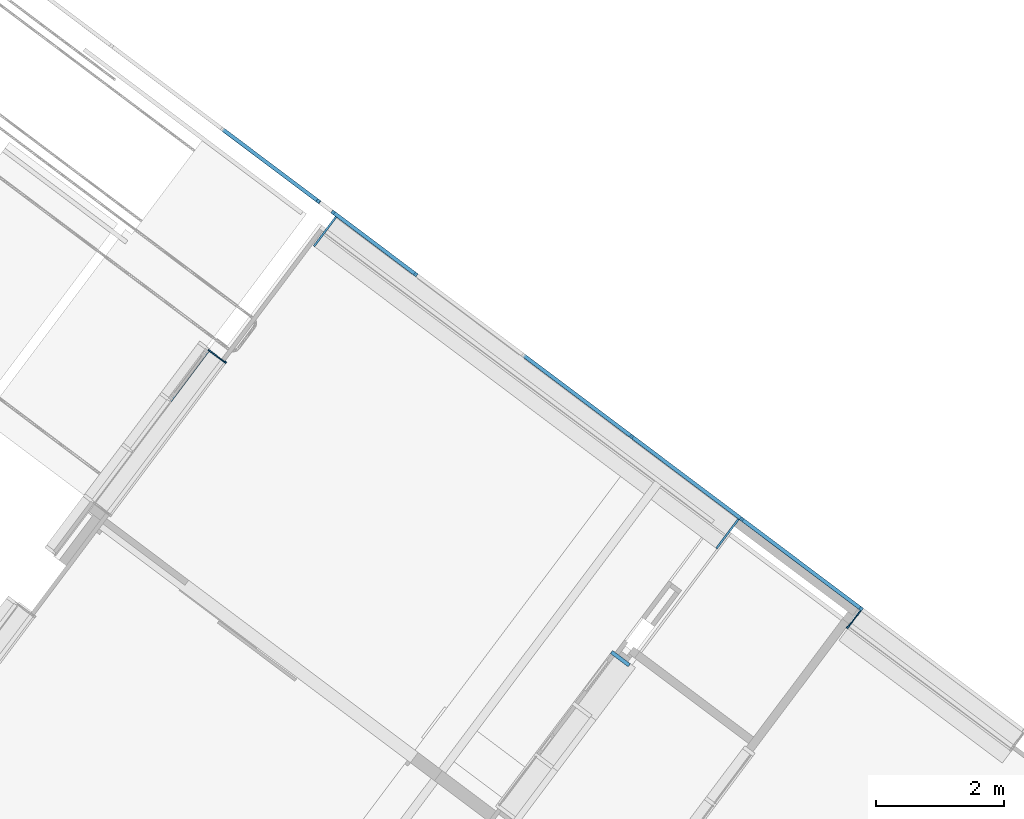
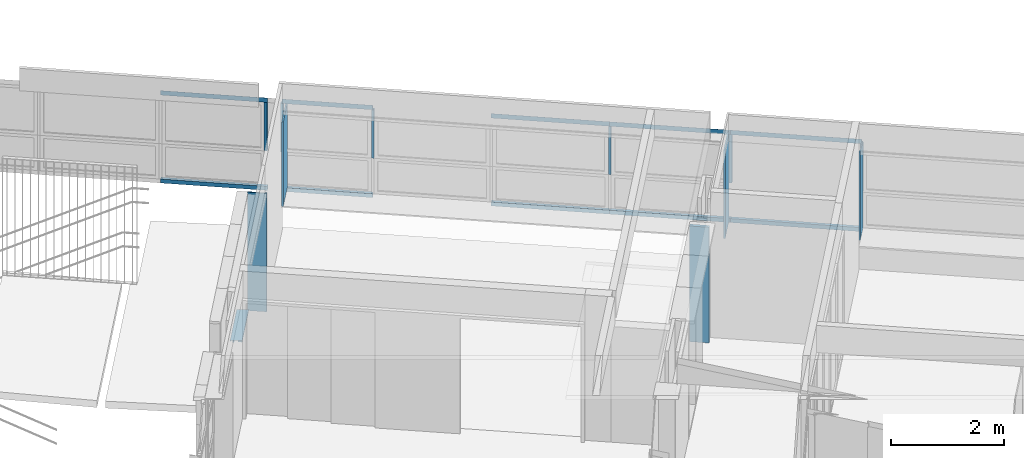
# One storey, part 31 of 243: 23 members, 7 elements without a shape of their own.
"""IFC2X3 building model written with IfcOpenShell, lengths in metres."""

from ifc_helpers import new_model, entity, si_unit, converted_unit, derived_unit, direction, frame, frame_2d, origin, origin_2d_with_axis, place, context, subcontext, project, spatial, polyline, circle_curve, parameter, trimmed, segment, composite_curve, rectangle, outline, extrude, source, transform, mapped, material, type_object, type_shapes, element, aggregate, save


model = new_model("IFC2X3")

# Units and contexts
model_context = context("Model", 3, precision=1e-05, world=origin(), true_north=direction((6.123031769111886e-17, 1.0)))
body_context = subcontext(model_context, "Body", "Model", "MODEL_VIEW")
ifc_project = project(units=[si_unit("LENGTHUNIT", "METRE"), si_unit("AREAUNIT", "SQUARE_METRE"), si_unit("VOLUMEUNIT", "CUBIC_METRE"), converted_unit("PLANEANGLEUNIT", "DEGREE", entity("IfcRatioMeasure", 0.017453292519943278), si_unit("PLANEANGLEUNIT", "RADIAN"), dimensions=[0, 0, 0, 0, 0, 0, 0]), si_unit("MASSUNIT", "GRAM", prefix="KILO"), derived_unit("MASSDENSITYUNIT", [(si_unit("MASSUNIT", "GRAM", prefix="KILO"), 1), (si_unit("LENGTHUNIT", "METRE"), -3)]), derived_unit("IONCONCENTRATIONUNIT", [(si_unit("MASSUNIT", "GRAM", prefix="KILO"), 1), (si_unit("LENGTHUNIT", "METRE"), -3)]), derived_unit("MOMENTOFINERTIAUNIT", [(si_unit("LENGTHUNIT", "METRE"), 4)]), si_unit("TIMEUNIT", "SECOND"), si_unit("FREQUENCYUNIT", "HERTZ"), si_unit("THERMODYNAMICTEMPERATUREUNIT", "DEGREE_CELSIUS"), derived_unit("THERMALTRANSMITTANCEUNIT", [(si_unit("MASSUNIT", "GRAM", prefix="KILO"), 1), (si_unit("THERMODYNAMICTEMPERATUREUNIT", "KELVIN"), -1), (si_unit("TIMEUNIT", "SECOND"), -3)]), derived_unit("THERMALCONDUCTANCEUNIT", [(si_unit("MASSUNIT", "GRAM", prefix="KILO"), 1), (si_unit("THERMODYNAMICTEMPERATUREUNIT", "KELVIN"), -1), (si_unit("TIMEUNIT", "SECOND"), -3), (si_unit("LENGTHUNIT", "METRE"), 1)]), derived_unit("VOLUMETRICFLOWRATEUNIT", [(si_unit("LENGTHUNIT", "METRE"), 3), (si_unit("TIMEUNIT", "SECOND"), -1)]), derived_unit("MASSFLOWRATEUNIT", [(si_unit("MASSUNIT", "GRAM", prefix="KILO"), 1), (si_unit("TIMEUNIT", "SECOND"), -1)]), derived_unit("ROTATIONALFREQUENCYUNIT", [(si_unit("TIMEUNIT", "SECOND"), -1)]), si_unit("ELECTRICCURRENTUNIT", "AMPERE"), si_unit("ELECTRICVOLTAGEUNIT", "VOLT"), si_unit("POWERUNIT", "WATT"), si_unit("FORCEUNIT", "NEWTON", prefix="KILO"), si_unit("ILLUMINANCEUNIT", "LUX"), si_unit("LUMINOUSFLUXUNIT", "LUMEN"), si_unit("LUMINOUSINTENSITYUNIT", "CANDELA"), derived_unit("USERDEFINED", [(si_unit("MASSUNIT", "GRAM", prefix="KILO"), -1), (si_unit("LENGTHUNIT", "METRE"), -2), (si_unit("TIMEUNIT", "SECOND"), 3), (si_unit("LUMINOUSFLUXUNIT", "LUMEN"), 1)]), derived_unit("USERDEFINED", [(si_unit("MASSUNIT", "GRAM", prefix="KILO"), 1), (si_unit("TIMEUNIT", "SECOND"), -3), (si_unit("LENGTHUNIT", "METRE"), 3), (si_unit("ELECTRICCURRENTUNIT", "AMPERE"), -2)]), derived_unit("SOUNDPOWERUNIT", [(si_unit("MASSUNIT", "GRAM", prefix="KILO"), 1), (si_unit("TIMEUNIT", "SECOND"), -3), (si_unit("LENGTHUNIT", "METRE"), 2)]), derived_unit("SOUNDPRESSUREUNIT", [(si_unit("MASSUNIT", "GRAM", prefix="KILO"), 1), (si_unit("LENGTHUNIT", "METRE"), -1), (si_unit("TIMEUNIT", "SECOND"), -2)]), derived_unit("LINEARVELOCITYUNIT", [(si_unit("LENGTHUNIT", "METRE"), 1), (si_unit("TIMEUNIT", "SECOND"), -1)]), si_unit("PRESSUREUNIT", "PASCAL"), derived_unit("USERDEFINED", [(si_unit("MASSUNIT", "GRAM", prefix="KILO"), 1), (si_unit("LENGTHUNIT", "METRE"), -2), (si_unit("TIMEUNIT", "SECOND"), -2)]), derived_unit("LINEARFORCEUNIT", [(si_unit("MASSUNIT", "GRAM", prefix="KILO"), 1), (si_unit("TIMEUNIT", "SECOND"), -2)]), derived_unit("PLANARFORCEUNIT", [(si_unit("MASSUNIT", "GRAM", prefix="KILO"), 1), (si_unit("LENGTHUNIT", "METRE"), -1), (si_unit("TIMEUNIT", "SECOND"), -2)]), derived_unit("SPECIFICHEATCAPACITYUNIT", [(si_unit("THERMODYNAMICTEMPERATUREUNIT", "KELVIN"), -1), (si_unit("LENGTHUNIT", "METRE"), 2), (si_unit("TIMEUNIT", "SECOND"), -2)]), derived_unit("HEATINGVALUEUNIT", [(si_unit("LENGTHUNIT", "METRE"), 2), (si_unit("TIMEUNIT", "SECOND"), -2)]), derived_unit("VAPORPERMEABILITYUNIT", [(si_unit("LENGTHUNIT", "METRE"), -1), (si_unit("TIMEUNIT", "SECOND"), 1)]), derived_unit("DYNAMICVISCOSITYUNIT", [(si_unit("MASSUNIT", "GRAM", prefix="KILO"), 1), (si_unit("TIMEUNIT", "SECOND"), -1), (si_unit("LENGTHUNIT", "METRE"), -1)]), derived_unit("THERMALEXPANSIONCOEFFICIENTUNIT", [(si_unit("THERMODYNAMICTEMPERATUREUNIT", "KELVIN"), -1)]), derived_unit("MODULUSOFELASTICITYUNIT", [(si_unit("MASSUNIT", "GRAM", prefix="KILO"), 1), (si_unit("LENGTHUNIT", "METRE"), -1), (si_unit("TIMEUNIT", "SECOND"), -2)]), derived_unit("ISOTHERMALMOISTURECAPACITYUNIT", [(si_unit("LENGTHUNIT", "METRE"), 3), (si_unit("MASSUNIT", "GRAM", prefix="KILO"), -1)]), derived_unit("MOISTUREDIFFUSIVITYUNIT", [(si_unit("TIMEUNIT", "SECOND"), -1), (si_unit("LENGTHUNIT", "METRE"), 2)])], contexts=[model_context])

# Site, building, storey
site_placement = place(None, frame((0.0, 0.0, 235.0), z_axis=(0.0, 0.0, 1.0), x_axis=(-0.7996477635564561, 0.6004693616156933, 0.0)))
site = spatial("IfcSite", under=ifc_project, at=site_placement, Name="Default", CompositionType="ELEMENT")
building_placement = place(site_placement, origin())
building = spatial("IfcBuilding", under=site, at=building_placement, CompositionType="ELEMENT")
storey_placement = place(building_placement, origin())
storey = spatial("IfcBuildingStorey", under=building, at=storey_placement, Name="P0- Escola", CompositionType="ELEMENT", Elevation=0.0)

# Curtain wall, member
curtain_wall_type_1 = type_object("IfcCurtainWallType", Name="Muro cortina:MC- INT- a4", PredefinedType="NOTDEFINED")
curtain_wall_1_placement = place(storey_placement, origin())
curtain_wall_1 = element("IfcCurtainWall", 1, at=curtain_wall_1_placement, inside=storey, type_object=curtain_wall_type_1, Name="Muro cortina:MC- INT- a4", ObjectType="Muro cortina:MC- INT- a4")
ifc_material_1 = material(Name="_Fusta massisa- T1")
member_type_1 = type_object("IfcMemberType", Name="Montante rectangular:MC- Fusta- 35x6 cm- Neutre", PredefinedType="MULLION", material=ifc_material_1)
shared_shape_1 = source(origin(), body_context, "Body", "SweptSolid", [
    extrude(rectangle(XDim=0.3500000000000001, YDim=0.06, at=origin_2d_with_axis()), frame((-0.03, -0.13499999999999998, -2.5050000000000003), z_axis=(0.0, 0.0, 1.0), x_axis=(0.0, -1.0, 0.0)), (0.0, 0.0, 1.0), 2.5050000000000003),
])
type_shapes(member_type_1, [shared_shape_1])
member_1_placement = place(curtain_wall_1_placement, frame((15.955147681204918, -39.44769175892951, 2.5050000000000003), z_axis=(0.0, 0.0, 1.0), x_axis=(0.0, -1.0, 0.0)))
member_1 = element("IfcMember", 2, at=member_1_placement, type_object=member_type_1, material=ifc_material_1, Name="Montante rectangular:MC- Fusta- 35x6 cm- Neutre", ObjectType="Montante rectangular:MC- Fusta- 35x6 cm- Neutre", context=body_context, shape_type="MappedRepresentation", body=[
    mapped(shared_shape_1, transform((0.0, 0.0, 0.0), scale=1.0)),
])
aggregate(curtain_wall_1, [member_1])

curtain_wall_type_2 = type_object("IfcCurtainWallType", Name="Muro cortina:MC- INT- k10- Pati passadís", PredefinedType="NOTDEFINED")
curtain_wall_2_placement = place(storey_placement, origin())
curtain_wall_2 = element("IfcCurtainWall", 3, at=curtain_wall_2_placement, inside=storey, type_object=curtain_wall_type_2, Name="Muro cortina:MC- INT- k10- Pati passadís", ObjectType="Muro cortina:MC- INT- k10- Pati passadís")
member_type_2 = type_object("IfcMemberType", Name="Montante rectangular:MC- Fusta- 35x3 cm- Pati aules- Remat dreta", PredefinedType="MULLION", material=ifc_material_1)
shared_shape_2 = source(origin(), body_context, "Body", "SweptSolid", [
    extrude(outline(polyline([(-0.12500000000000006, -0.01666666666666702), (0.22000000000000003, -0.01666666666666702), (0.22000000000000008, 0.003333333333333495), (-0.09499999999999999, 0.003333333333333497), (-0.09500000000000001, 0.013333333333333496), (-0.12499999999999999, 0.013333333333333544), (-0.12500000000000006, -0.01666666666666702)])), frame((-0.013333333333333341, -0.030000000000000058, -2.5649999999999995), z_axis=(0.0, 0.0, 1.0), x_axis=(0.0, -1.0, 0.0)), (0.0, 0.0, 1.0), 2.565),
])
type_shapes(member_type_2, [shared_shape_2])
member_2_placement = place(curtain_wall_2_placement, frame((23.645147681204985, -39.430191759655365, 0.0), z_axis=(0.0, 0.0, -1.0), x_axis=(0.0, -1.0, 0.0)))
member_2 = element("IfcMember", 4, at=member_2_placement, type_object=member_type_2, material=ifc_material_1, Name="Montante rectangular:MC- Fusta- 35x3 cm- Pati aules- Remat dreta", ObjectType="Montante rectangular:MC- Fusta- 35x3 cm- Pati aules- Remat dreta", context=body_context, shape_type="MappedRepresentation", body=[
    mapped(shared_shape_2, transform((0.0, 0.0, 0.0), scale=1.0)),
])
aggregate(curtain_wall_2, [member_2])

# Curtain wall, members
curtain_wall_type_3 = type_object("IfcCurtainWallType", Name="Muro cortina:MC- EXT- MC6", PredefinedType="NOTDEFINED")
curtain_wall_3_placement = place(storey_placement, origin())
curtain_wall_3 = element("IfcCurtainWall", 5, at=curtain_wall_3_placement, inside=storey, type_object=curtain_wall_type_3, Name="Muro cortina:MC- EXT- MC6", ObjectType="Muro cortina:MC- EXT- MC6")
ifc_material_2 = material(Name="_Alumini- T1- Perfil")
member_type_3 = type_object("IfcMemberType", Name="Montante rectangular:MC- Alu- 140x52,5 cm- Fa pista- Superior", PredefinedType="MULLION", material=ifc_material_2)
shared_shape_3 = source(origin(), body_context, "Body", "SweptSolid", [
    extrude(outline(polyline([(-0.03933333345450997, -0.04916666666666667), (0.02066666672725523, -0.04916666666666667), (0.020666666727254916, 0.048333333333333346), (0.018666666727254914, 0.04833333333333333), (0.018666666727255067, 0.00083333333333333), (-0.03933333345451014, 0.00083333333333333), (-0.03933333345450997, -0.04916666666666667)])), frame((-0.048333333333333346, -0.03933333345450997, -2.117000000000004), z_axis=(0.0, 0.0, 1.0), x_axis=(0.0, -1.0, 0.0)), (0.0, 0.0, 1.0), 2.117000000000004),
])
type_shapes(member_type_3, [shared_shape_3])
member_3_placement = place(curtain_wall_3_placement, frame((19.888147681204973, -42.3401917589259, 2.6000000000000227), z_axis=(1.0, 0.0, 0.0), x_axis=(0.0, 0.0, 1.0)))
member_3 = element("IfcMember", 6, at=member_3_placement, type_object=member_type_3, material=ifc_material_2, Name="Montante rectangular:MC- Alu- 140x52,5 cm- Fa pista- Superior", ObjectType="Montante rectangular:MC- Alu- 140x52,5 cm- Fa pista- Superior", context=body_context, shape_type="MappedRepresentation", body=[
    mapped(shared_shape_3, transform((0.0, 0.0, 0.0), scale=1.0)),
])
member_type_4 = type_object("IfcMemberType", Name="Montante rectangular:MC- Alu- 52x80 cm- Fa pista- inferior", PredefinedType="MULLION", material=ifc_material_2)
shared_shape_4 = source(origin(), body_context, "Body", "SweptSolid", [
    extrude(rectangle(XDim=0.06000000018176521, YDim=0.085, at=origin_2d_with_axis()), frame((-0.0425, -0.030000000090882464, -2.117000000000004), z_axis=(0.0, 0.0, 1.0), x_axis=(0.0, -1.0, 0.0)), (0.0, 0.0, 1.0), 2.117000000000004),
])
type_shapes(member_type_4, [shared_shape_4])
member_4_placement = place(curtain_wall_3_placement, frame((17.77114768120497, -42.34019175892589, 0.6000000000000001), z_axis=(-1.0, 0.0, 0.0), x_axis=(0.0, 0.0, -1.0)))
member_4 = element("IfcMember", 7, at=member_4_placement, type_object=member_type_4, material=ifc_material_2, Name="Montante rectangular:MC- Alu- 52x80 cm- Fa pista- inferior", ObjectType="Montante rectangular:MC- Alu- 52x80 cm- Fa pista- inferior", context=body_context, shape_type="MappedRepresentation", body=[
    mapped(shared_shape_4, transform((0.0, 0.0, 0.0), scale=1.0)),
])
member_type_5 = type_object("IfcMemberType", Name="Montante rectangular:MC- Alu- 50x60 cm- Fa pista- Centre", PredefinedType="MULLION", material=ifc_material_2)
shared_shape_5 = source(origin(), body_context, "Body", "SweptSolid", [
    extrude(rectangle(XDim=0.06000000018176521, YDim=0.05, at=frame_2d((3.469446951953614e-18, 0.0), x_axis=(1.0, 0.0))), frame((-0.025, -0.030000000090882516, -1.0475000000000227), z_axis=(0.0, 0.0, 1.0), x_axis=(0.0, -1.0, 0.0)), (0.0, 0.0, 1.0), 1.0475000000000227),
])
type_shapes(member_type_5, [shared_shape_5])
member_5_placement = place(curtain_wall_3_placement, frame((23.945147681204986, -42.34019175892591, 1.455), z_axis=(0.0, 0.0, -1.0), x_axis=(1.0, 0.0, 0.0)))
member_5 = element("IfcMember", 8, at=member_5_placement, type_object=member_type_5, material=ifc_material_2, Name="Montante rectangular:MC- Alu- 50x60 cm- Fa pista- Centre", ObjectType="Montante rectangular:MC- Alu- 50x60 cm- Fa pista- Centre", context=body_context, shape_type="MappedRepresentation", body=[
    mapped(shared_shape_5, transform((0.0, 0.0, 0.0), scale=1.0)),
])
member_type_6 = type_object("IfcMemberType", Name="Montante rectangular:MC- Alu- 50x60 cm- Fa pista- Centre", PredefinedType="MULLION", material=ifc_material_2)
shared_shape_6 = source(origin(), body_context, "Body", "SweptSolid", [
    extrude(rectangle(XDim=0.0600000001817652, YDim=0.05, at=frame_2d((8.673617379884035e-18, 0.0), x_axis=(1.0, 0.0))), frame((0.0, -0.030000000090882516, -1.0475000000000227), z_axis=(0.0, 0.0, 1.0), x_axis=(0.0, -1.0, 0.0)), (0.0, 0.0, 1.0), 1.0475000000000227),
])
type_shapes(member_type_6, [shared_shape_6])
member_6_placement = place(curtain_wall_3_placement, frame((13.271429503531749, -42.340191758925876, 1.455), z_axis=(0.0, 0.0, -1.0), x_axis=(1.0, 0.0, 0.0)))
member_6 = element("IfcMember", 9, at=member_6_placement, type_object=member_type_6, material=ifc_material_2, Name="Montante rectangular:MC- Alu- 50x60 cm- Fa pista- Centre", ObjectType="Montante rectangular:MC- Alu- 50x60 cm- Fa pista- Centre", context=body_context, shape_type="MappedRepresentation", body=[
    mapped(shared_shape_6, transform((0.0, 0.0, 0.0), scale=1.0)),
])
member_7_placement = place(curtain_wall_3_placement, frame((15.611792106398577, -42.34019175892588, 1.455), z_axis=(0.0, 0.0, -1.0), x_axis=(1.0, 0.0, 0.0)))
member_7 = element("IfcMember", 10, at=member_7_placement, type_object=member_type_6, material=ifc_material_2, Name="Montante rectangular:MC- Alu- 50x60 cm- Fa pista- Centre", ObjectType="Montante rectangular:MC- Alu- 50x60 cm- Fa pista- Centre", context=body_context, shape_type="MappedRepresentation", body=[
    mapped(shared_shape_6, transform((0.0, 0.0, 0.0), scale=1.0)),
])
member_8_placement = place(curtain_wall_3_placement, frame((17.77114768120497, -42.34019175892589, 1.455), z_axis=(0.0, 0.0, -1.0), x_axis=(1.0, 0.0, 0.0)))
member_8 = element("IfcMember", 11, at=member_8_placement, type_object=member_type_6, material=ifc_material_2, Name="Montante rectangular:MC- Alu- 50x60 cm- Fa pista- Centre", ObjectType="Montante rectangular:MC- Alu- 50x60 cm- Fa pista- Centre", context=body_context, shape_type="MappedRepresentation", body=[
    mapped(shared_shape_6, transform((0.0, 0.0, 0.0), scale=1.0)),
])
member_9_placement = place(curtain_wall_3_placement, frame((22.005147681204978, -42.3401917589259, 1.455), z_axis=(0.0, 0.0, -1.0), x_axis=(1.0, 0.0, 0.0)))
member_9 = element("IfcMember", 12, at=member_9_placement, type_object=member_type_6, material=ifc_material_2, Name="Montante rectangular:MC- Alu- 50x60 cm- Fa pista- Centre", ObjectType="Montante rectangular:MC- Alu- 50x60 cm- Fa pista- Centre", context=body_context, shape_type="MappedRepresentation", body=[
    mapped(shared_shape_6, transform((0.0, 0.0, 0.0), scale=1.0)),
])
member_10_placement = place(curtain_wall_3_placement, frame((23.625147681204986, -42.34019175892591, 1.455), z_axis=(0.0, 0.0, -1.0), x_axis=(1.0, 0.0, 0.0)))
member_10 = element("IfcMember", 13, at=member_10_placement, type_object=member_type_6, material=ifc_material_2, Name="Montante rectangular:MC- Alu- 50x60 cm- Fa pista- Centre", ObjectType="Montante rectangular:MC- Alu- 50x60 cm- Fa pista- Centre", context=body_context, shape_type="MappedRepresentation", body=[
    mapped(shared_shape_6, transform((0.0, 0.0, 0.0), scale=1.0)),
])

# Curtain wall, member
curtain_wall_type_4 = type_object("IfcCurtainWallType", Name="Muro cortina:MC- EXT- MC2", PredefinedType="NOTDEFINED")
curtain_wall_4_placement = place(storey_placement, origin())
curtain_wall_4 = element("IfcCurtainWall", 14, at=curtain_wall_4_placement, inside=storey, type_object=curtain_wall_type_4, Name="Muro cortina:MC- EXT- MC2", ObjectType="Muro cortina:MC- EXT- MC2")
member_type_7 = type_object("IfcMemberType", Name="Montante rectangular:MC- Alu- 140x52,5 cm- Fa patis- inferior", PredefinedType="MULLION", material=ifc_material_2)
shared_shape_7 = source(origin(), body_context, "Body", "SweptSolid", [
    extrude(outline(composite_curve([segment(polyline([(-0.144167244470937, -0.025867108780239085), (-0.12786724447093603, -0.02586710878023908)]), True, "CONTINUOUS"), segment(polyline([(-0.12786724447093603, -0.02586710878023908), (-0.12786724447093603, -0.023167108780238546)]), True, "CONTINUOUS"), segment(polyline([(-0.12786724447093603, -0.023167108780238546), (-0.0678672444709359, -0.023167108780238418)]), True, "CONTINUOUS"), segment(polyline([(-0.0678672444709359, -0.023167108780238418), (0.07031215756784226, -0.010722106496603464)]), True, "CONTINUOUS"), segment(trimmed(circle_curve(frame_2d((0.07013275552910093, -0.008730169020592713), x_axis=(0.0897010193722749, -0.9959687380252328)), 0.0019999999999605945), [parameter(0.0)], [parameter(84.8535928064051)], True, "PARAMETER"), True, "CONTINUOUS"), segment(polyline([(0.07213275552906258, -0.008730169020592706), (0.07213275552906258, 0.006266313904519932)]), True, "CONTINUOUS"), segment(trimmed(circle_curve(frame_2d((0.07013275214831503, 0.006266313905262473), x_axis=(1.0, 0.0)), 0.0020000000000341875), [parameter(0.0)], [parameter(90.00000002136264)], True, "PARAMETER"), True, "CONTINUOUS"), segment(polyline([(0.070132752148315, 0.008266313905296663), (0.06213275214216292, 0.008266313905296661)]), True, "CONTINUOUS"), segment(polyline([(0.06213275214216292, 0.008266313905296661), (0.06213275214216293, 0.006266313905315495)]), True, "CONTINUOUS"), segment(polyline([(0.06213275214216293, 0.006266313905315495), (0.06963275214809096, 0.006266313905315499)]), True, "CONTINUOUS"), segment(trimmed(circle_curve(frame_2d((0.06963275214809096, 0.005766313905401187), x_axis=(0.0, 1.0)), 0.0004999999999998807), [parameter(269.9999999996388)], [parameter(0.0)], True, "PARAMETER"), False, "CONTINUOUS"), segment(polyline([(0.07013275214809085, 0.005766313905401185), (0.07013275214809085, -0.008730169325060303)]), True, "CONTINUOUS"), segment(polyline([(0.07013275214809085, -0.008730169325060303), (0.03213275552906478, -0.012152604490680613)]), True, "CONTINUOUS"), segment(polyline([(0.03213275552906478, -0.0121526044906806), (0.03213275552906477, 0.029132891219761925)]), True, "CONTINUOUS"), segment(polyline([(0.03213275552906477, 0.029132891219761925), (0.0021327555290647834, 0.029132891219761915)]), True, "CONTINUOUS"), segment(polyline([(0.0021327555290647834, 0.029132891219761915), (0.0021327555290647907, 0.02713289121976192)]), True, "CONTINUOUS"), segment(polyline([(0.0021327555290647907, 0.02713289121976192), (0.03013275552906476, 0.02713289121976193)]), True, "CONTINUOUS"), segment(polyline([(0.03013275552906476, 0.027132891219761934), (0.03013275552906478, -0.012332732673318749)]), True, "CONTINUOUS"), segment(polyline([(0.03013275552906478, -0.012332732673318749), (-0.06786724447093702, -0.021159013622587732)]), True, "CONTINUOUS"), segment(polyline([(-0.06786724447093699, -0.02115901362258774), (-0.067867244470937, 0.009132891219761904)]), True, "CONTINUOUS"), segment(polyline([(-0.06786724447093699, 0.009132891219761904), (-0.14416724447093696, 0.009132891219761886)]), True, "CONTINUOUS"), segment(polyline([(-0.14416724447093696, 0.009132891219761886), (-0.144167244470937, -0.025867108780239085)]), True, "CONTINUOUS")], self_intersect=False)), frame((-0.029132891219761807, -0.06786724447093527, -0.9737499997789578), z_axis=(0.0, 0.0, 1.0), x_axis=(0.0, -1.0, 0.0)), (0.0, 0.0, 1.0), 0.9737499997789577),
])
type_shapes(member_type_7, [shared_shape_7])
member_11_placement = place(curtain_wall_4_placement, frame((23.945147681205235, -38.41519175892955, -0.02), z_axis=(0.0, 1.0, 0.0), x_axis=(0.0, 0.0, -1.0)))
member_11 = element("IfcMember", 15, at=member_11_placement, type_object=member_type_7, material=ifc_material_2, Name="Montante rectangular:MC- Alu- 140x52,5 cm- Fa patis- inferior", ObjectType="Montante rectangular:MC- Alu- 140x52,5 cm- Fa patis- inferior", context=body_context, shape_type="MappedRepresentation", body=[
    mapped(shared_shape_7, transform((0.0, 0.0, 0.0), scale=1.0)),
])
aggregate(curtain_wall_4, [member_11])

curtain_wall_type_5 = type_object("IfcCurtainWallType", Name="Muro cortina:MC- INT- Fa Pista", PredefinedType="NOTDEFINED")
curtain_wall_5_placement = place(storey_placement, origin())
curtain_wall_5 = element("IfcCurtainWall", 16, at=curtain_wall_5_placement, inside=storey, type_object=curtain_wall_type_5, Name="Muro cortina:MC- INT- Fa Pista", ObjectType="Muro cortina:MC- INT- Fa Pista")
member_type_8 = type_object("IfcMemberType", Name="Montante rectangular:MC- Fusta- 34x3 cm- Fa Pista- Remat dreta", PredefinedType="MULLION", material=ifc_material_1)
shared_shape_8 = source(origin(), body_context, "Body", "SweptSolid", [
    extrude(outline(polyline([(-0.22, -0.01666666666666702), (0.12500000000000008, -0.01666666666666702), (0.12500000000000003, 0.013333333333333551), (0.09500000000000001, 0.013333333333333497), (0.09499999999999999, 0.003333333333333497), (-0.22, 0.003333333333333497), (-0.22, -0.01666666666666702)])), frame((-0.013333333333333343, 0.03000000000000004, -1.9099999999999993), z_axis=(0.0, 0.0, 1.0), x_axis=(0.0, -1.0, 0.0)), (0.0, 0.0, 1.0), 1.9099999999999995),
])
type_shapes(member_type_8, [shared_shape_8])
member_12_placement = place(curtain_wall_5_placement, frame((13.280147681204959, -42.030191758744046, 0.6550000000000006), z_axis=(0.0, 0.0, -1.0), x_axis=(1.0, 0.0, 0.0)))
member_12 = element("IfcMember", 17, at=member_12_placement, type_object=member_type_8, material=ifc_material_1, Name="Montante rectangular:MC- Fusta- 34x3 cm- Fa Pista- Remat dreta", ObjectType="Montante rectangular:MC- Fusta- 34x3 cm- Fa Pista- Remat dreta", context=body_context, shape_type="MappedRepresentation", body=[
    mapped(shared_shape_8, transform((0.0, 0.0, 0.0), scale=1.0)),
])
aggregate(curtain_wall_5, [member_12])

# Member
member_type_9 = type_object("IfcMemberType", Name="Montante rectangular:MC- Alu- 52x80 cm- Fa pista- inferior", PredefinedType="MULLION", material=ifc_material_2)
shared_shape_9 = source(origin(), body_context, "Body", "SweptSolid", [
    extrude(rectangle(XDim=0.06000000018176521, YDim=0.085, at=origin_2d_with_axis()), frame((-0.0425, -0.030000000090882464, -1.6200000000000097), z_axis=(0.0, 0.0, 1.0), x_axis=(0.0, -1.0, 0.0)), (0.0, 0.0, 1.0), 1.6200000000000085),
])
type_shapes(member_type_9, [shared_shape_9])
member_13_placement = place(curtain_wall_3_placement, frame((22.005147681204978, -42.3401917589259, 0.6000000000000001), z_axis=(-1.0, 0.0, 0.0), x_axis=(0.0, 0.0, -1.0)))
member_13 = element("IfcMember", 18, at=member_13_placement, type_object=member_type_9, material=ifc_material_2, Name="Montante rectangular:MC- Alu- 52x80 cm- Fa pista- inferior", ObjectType="Montante rectangular:MC- Alu- 52x80 cm- Fa pista- inferior", context=body_context, shape_type="MappedRepresentation", body=[
    mapped(shared_shape_9, transform((0.0, 0.0, 0.0), scale=1.0)),
])

member_type_10 = type_object("IfcMemberType", Name="Montante rectangular:MC- Alu- 140x52,5 cm- Fa pista- Superior", PredefinedType="MULLION", material=ifc_material_2)
shared_shape_10 = source(origin(), body_context, "Body", "SweptSolid", [
    extrude(outline(polyline([(-0.03933333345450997, -0.04916666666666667), (0.02066666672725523, -0.04916666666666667), (0.020666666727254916, 0.048333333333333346), (0.018666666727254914, 0.04833333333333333), (0.018666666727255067, 0.00083333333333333), (-0.03933333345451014, 0.00083333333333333), (-0.03933333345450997, -0.04916666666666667)])), frame((-0.048333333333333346, -0.03933333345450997, -2.1593555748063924), z_axis=(0.0, 0.0, 1.0), x_axis=(0.0, -1.0, 0.0)), (0.0, 0.0, 1.0), 2.159355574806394),
])
type_shapes(member_type_10, [shared_shape_10])
member_14_placement = place(curtain_wall_3_placement, frame((17.77114768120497, -42.34019175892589, 2.6000000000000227), z_axis=(1.0, 0.0, 0.0), x_axis=(0.0, 0.0, 1.0)))
member_14 = element("IfcMember", 19, at=member_14_placement, type_object=member_type_10, material=ifc_material_2, Name="Montante rectangular:MC- Alu- 140x52,5 cm- Fa pista- Superior", ObjectType="Montante rectangular:MC- Alu- 140x52,5 cm- Fa pista- Superior", context=body_context, shape_type="MappedRepresentation", body=[
    mapped(shared_shape_10, transform((0.0, 0.0, 0.0), scale=1.0)),
])

member_type_11 = type_object("IfcMemberType", Name="Montante rectangular:MC- Alu- 52x80 cm- Fa pista- inferior", PredefinedType="MULLION", material=ifc_material_2)
shared_shape_11 = source(origin(), body_context, "Body", "SweptSolid", [
    extrude(rectangle(XDim=0.06000000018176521, YDim=0.085, at=origin_2d_with_axis()), frame((-0.0425, -0.030000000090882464, -2.159355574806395), z_axis=(0.0, 0.0, 1.0), x_axis=(0.0, -1.0, 0.0)), (0.0, 0.0, 1.0), 2.159355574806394),
])
type_shapes(member_type_11, [shared_shape_11])
member_15_placement = place(curtain_wall_3_placement, frame((15.611792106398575, -42.34019175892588, 0.6000000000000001), z_axis=(-1.0, 0.0, 0.0), x_axis=(0.0, 0.0, -1.0)))
member_15 = element("IfcMember", 20, at=member_15_placement, type_object=member_type_11, material=ifc_material_2, Name="Montante rectangular:MC- Alu- 52x80 cm- Fa pista- inferior", ObjectType="Montante rectangular:MC- Alu- 52x80 cm- Fa pista- inferior", context=body_context, shape_type="MappedRepresentation", body=[
    mapped(shared_shape_11, transform((0.0, 0.0, 0.0), scale=1.0)),
])

member_type_12 = type_object("IfcMemberType", Name="Montante rectangular:MC- Alu- 52x80 cm- Fa pista- inferior", PredefinedType="MULLION", material=ifc_material_2)
shared_shape_12 = source(origin(), body_context, "Body", "SweptSolid", [
    extrude(rectangle(XDim=0.06000000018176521, YDim=0.085, at=origin_2d_with_axis()), frame((-0.0425, -0.030000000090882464, -2.3403626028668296), z_axis=(0.0, 0.0, 1.0), x_axis=(0.0, -1.0, 0.0)), (0.0, 0.0, 1.0), 2.3403626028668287),
])
type_shapes(member_type_12, [shared_shape_12])
member_16_placement = place(curtain_wall_3_placement, frame((13.271429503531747, -42.340191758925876, 0.6000000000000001), z_axis=(-1.0, 0.0, 0.0), x_axis=(0.0, 0.0, -1.0)))
member_16 = element("IfcMember", 21, at=member_16_placement, type_object=member_type_12, material=ifc_material_2, Name="Montante rectangular:MC- Alu- 52x80 cm- Fa pista- inferior", ObjectType="Montante rectangular:MC- Alu- 52x80 cm- Fa pista- inferior", context=body_context, shape_type="MappedRepresentation", body=[
    mapped(shared_shape_12, transform((0.0, 0.0, 0.0), scale=1.0)),
])

member_type_13 = type_object("IfcMemberType", Name="Montante rectangular:MC- Alu- 140x52,5 cm- Fa pista- Superior", PredefinedType="MULLION", material=ifc_material_2)
shared_shape_13 = source(origin(), body_context, "Body", "SweptSolid", [
    extrude(outline(polyline([(-0.03933333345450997, -0.04916666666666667), (0.02066666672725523, -0.04916666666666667), (0.020666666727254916, 0.048333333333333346), (0.018666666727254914, 0.04833333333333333), (0.018666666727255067, 0.00083333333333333), (-0.03933333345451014, 0.00083333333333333), (-0.03933333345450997, -0.04916666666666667)])), frame((-0.048333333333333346, -0.03933333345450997, -1.6200000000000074), z_axis=(0.0, 0.0, 1.0), x_axis=(0.0, -1.0, 0.0)), (0.0, 0.0, 1.0), 1.6200000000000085),
])
type_shapes(member_type_13, [shared_shape_13])
member_17_placement = place(curtain_wall_3_placement, frame((23.625147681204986, -42.34019175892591, 2.6000000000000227), z_axis=(1.0, 0.0, 0.0), x_axis=(0.0, 0.0, 1.0)))
member_17 = element("IfcMember", 22, at=member_17_placement, type_object=member_type_13, material=ifc_material_2, Name="Montante rectangular:MC- Alu- 140x52,5 cm- Fa pista- Superior", ObjectType="Montante rectangular:MC- Alu- 140x52,5 cm- Fa pista- Superior", context=body_context, shape_type="MappedRepresentation", body=[
    mapped(shared_shape_13, transform((0.0, 0.0, 0.0), scale=1.0)),
])

member_type_14 = type_object("IfcMemberType", Name="Montante rectangular:MC- Alu- 140x52,5 cm- Fa pista- Superior", PredefinedType="MULLION", material=ifc_material_2)
shared_shape_14 = source(origin(), body_context, "Body", "SweptSolid", [
    extrude(outline(polyline([(-0.03933333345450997, -0.04916666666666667), (0.02066666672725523, -0.04916666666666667), (0.020666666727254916, 0.048333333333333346), (0.018666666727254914, 0.04833333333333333), (0.018666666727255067, 0.00083333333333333), (-0.03933333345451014, 0.00083333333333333), (-0.03933333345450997, -0.04916666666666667)])), frame((-0.048333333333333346, -0.03933333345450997, -2.3403626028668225), z_axis=(0.0, 0.0, 1.0), x_axis=(0.0, -1.0, 0.0)), (0.0, 0.0, 1.0), 2.3403626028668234),
])
type_shapes(member_type_14, [shared_shape_14])
member_18_placement = place(curtain_wall_3_placement, frame((15.611792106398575, -42.34019175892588, 2.6000000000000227), z_axis=(1.0, 0.0, 0.0), x_axis=(0.0, 0.0, 1.0)))
member_18 = element("IfcMember", 23, at=member_18_placement, type_object=member_type_14, material=ifc_material_2, Name="Montante rectangular:MC- Alu- 140x52,5 cm- Fa pista- Superior", ObjectType="Montante rectangular:MC- Alu- 140x52,5 cm- Fa pista- Superior", context=body_context, shape_type="MappedRepresentation", body=[
    mapped(shared_shape_14, transform((0.0, 0.0, 0.0), scale=1.0)),
])

aggregate(curtain_wall_3, [member_13, member_3, member_14, member_4, member_15, member_16, member_5, member_6, member_7, member_8, member_9, member_17, member_10, member_18])

# Curtain wall, members
curtain_wall_6_placement = place(storey_placement, origin())
curtain_wall_6 = element("IfcCurtainWall", 24, at=curtain_wall_6_placement, inside=storey, type_object=curtain_wall_type_5, Name="Muro cortina:MC- INT- Fa Pista", ObjectType="Muro cortina:MC- INT- Fa Pista")
member_type_15 = type_object("IfcMemberType", Name="Montante rectangular:MC- Fusta- 57,5x3 cm- Fa Pista- Remat extrem", PredefinedType="MULLION", material=ifc_material_1)
shared_shape_15 = source(origin(), body_context, "Body", "SweptSolid", [
    extrude(rectangle(XDim=0.5749999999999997, YDim=0.030000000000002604, at=frame_2d((0.0, -4.657732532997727e-16), x_axis=(1.0, 0.0))), frame((-0.015000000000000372, 0.03750000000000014, -1.8199999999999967), z_axis=(0.0, 0.0, 1.0), x_axis=(0.0, -1.0, 0.0)), (0.0, 0.0, 1.0), 1.8199999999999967),
])
type_shapes(member_type_15, [shared_shape_15])
member_19_placement = place(curtain_wall_6_placement, frame((23.561256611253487, -42.03019175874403, 2.5049999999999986)))
member_19 = element("IfcMember", 25, at=member_19_placement, type_object=member_type_15, material=ifc_material_1, Name="Montante rectangular:MC- Fusta- 57,5x3 cm- Fa Pista- Remat extrem", ObjectType="Montante rectangular:MC- Fusta- 57,5x3 cm- Fa Pista- Remat extrem", context=body_context, shape_type="MappedRepresentation", body=[
    mapped(shared_shape_15, transform((0.0, 0.0, 0.0), scale=1.0)),
])
member_type_16 = type_object("IfcMemberType", Name="Montante rectangular:MC- Fusta- 57,5x3 cm- Fa Pista- Remat extrem", PredefinedType="MULLION", material=ifc_material_1)
shared_shape_16 = source(origin(), body_context, "Body", "SweptSolid", [
    extrude(rectangle(XDim=0.575, YDim=0.030000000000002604, at=frame_2d((0.0, -4.631711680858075e-16), x_axis=(1.0, 0.0))), frame((-0.015000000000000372, 0.03750000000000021, -1.9099999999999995), z_axis=(0.0, 0.0, 1.0), x_axis=(0.0, -1.0, 0.0)), (0.0, 0.0, 1.0), 1.9099999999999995),
])
type_shapes(member_type_16, [shared_shape_16])
member_20_placement = place(curtain_wall_6_placement, frame((15.636792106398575, -42.03019175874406, 0.6550000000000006), z_axis=(0.0, 0.0, -1.0), x_axis=(-1.0, 0.0, 0.0)))
member_20 = element("IfcMember", 26, at=member_20_placement, type_object=member_type_16, material=ifc_material_1, Name="Montante rectangular:MC- Fusta- 57,5x3 cm- Fa Pista- Remat extrem", ObjectType="Montante rectangular:MC- Fusta- 57,5x3 cm- Fa Pista- Remat extrem", context=body_context, shape_type="MappedRepresentation", body=[
    mapped(shared_shape_16, transform((0.0, 0.0, 0.0), scale=1.0)),
])
aggregate(curtain_wall_6, [member_19, member_20])

curtain_wall_type_6 = type_object("IfcCurtainWallType", Name="Muro cortina:MC- EXT- MC9", PredefinedType="NOTDEFINED")
curtain_wall_7_placement = place(storey_placement, origin())
curtain_wall_7 = element("IfcCurtainWall", 27, at=curtain_wall_7_placement, inside=storey, type_object=curtain_wall_type_6, Name="Muro cortina:MC- EXT- MC9", ObjectType="Muro cortina:MC- EXT- MC9")
member_type_17 = type_object("IfcMemberType", Name="Montante rectangular:MC- Alu- 52x80 cm- Fa pista- inferior", PredefinedType="MULLION", material=ifc_material_2)
shared_shape_17 = source(origin(), body_context, "Body", "SweptSolid", [
    extrude(rectangle(XDim=0.06000000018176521, YDim=0.085, at=origin_2d_with_axis()), frame((-0.0425, -0.030000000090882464, -1.9089959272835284), z_axis=(0.0, 0.0, 1.0), x_axis=(0.0, -1.0, 0.0)), (0.0, 0.0, 1.0), 1.9089959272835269),
])
type_shapes(member_type_17, [shared_shape_17])
member_21_placement = place(curtain_wall_7_placement, frame((23.885147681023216, -42.3401917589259, 0.6000000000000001), z_axis=(-1.0, 0.0, 0.0), x_axis=(0.0, 0.0, -1.0)))
member_21 = element("IfcMember", 28, at=member_21_placement, type_object=member_type_17, material=ifc_material_2, Name="Montante rectangular:MC- Alu- 52x80 cm- Fa pista- inferior", ObjectType="Montante rectangular:MC- Alu- 52x80 cm- Fa pista- inferior", context=body_context, shape_type="MappedRepresentation", body=[
    mapped(shared_shape_17, transform((0.0, 0.0, 0.0), scale=1.0)),
])
member_type_18 = type_object("IfcMemberType", Name="Montante rectangular:MC- Alu- 50x60 cm- Fa pista- Centre", PredefinedType="MULLION", material=ifc_material_2)
shared_shape_18 = source(origin(), body_context, "Body", "SweptSolid", [
    extrude(rectangle(XDim=0.0600000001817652, YDim=0.05, at=origin_2d_with_axis()), frame((-0.025, -0.030000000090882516, -1.0525000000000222), z_axis=(0.0, 0.0, 1.0), x_axis=(0.0, -1.0, 0.0)), (0.0, 0.0, 1.0), 1.0525000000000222),
])
type_shapes(member_type_18, [shared_shape_18])
member_22_placement = place(curtain_wall_7_placement, frame((23.885147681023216, -42.3401917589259, 2.502500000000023), z_axis=(0.0, 0.0, 1.0), x_axis=(-1.0, 0.0, 0.0)))
member_22 = element("IfcMember", 29, at=member_22_placement, type_object=member_type_18, material=ifc_material_2, Name="Montante rectangular:MC- Alu- 50x60 cm- Fa pista- Centre", ObjectType="Montante rectangular:MC- Alu- 50x60 cm- Fa pista- Centre", context=body_context, shape_type="MappedRepresentation", body=[
    mapped(shared_shape_18, transform((0.0, 0.0, 0.0), scale=1.0)),
])
member_type_19 = type_object("IfcMemberType", Name="Montante rectangular:MC- Alu- 140x52,5 cm- Fa pista- Superior", PredefinedType="MULLION", material=ifc_material_2)
shared_shape_19 = source(origin(), body_context, "Body", "SweptSolid", [
    extrude(outline(polyline([(-0.03933333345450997, -0.04916666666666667), (0.02066666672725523, -0.04916666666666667), (0.020666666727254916, 0.048333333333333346), (0.018666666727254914, 0.04833333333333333), (0.018666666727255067, 0.00083333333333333), (-0.03933333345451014, 0.00083333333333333), (-0.03933333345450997, -0.04916666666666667)])), frame((-0.048333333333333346, -0.03933333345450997, -1.9089959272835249), z_axis=(0.0, 0.0, 1.0), x_axis=(0.0, -1.0, 0.0)), (0.0, 0.0, 1.0), 1.9089959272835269),
])
type_shapes(member_type_19, [shared_shape_19])
member_23_placement = place(curtain_wall_7_placement, frame((25.794143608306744, -42.34019175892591, 2.6000000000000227), z_axis=(1.0, 0.0, 0.0), x_axis=(0.0, 0.0, 1.0)))
member_23 = element("IfcMember", 30, at=member_23_placement, type_object=member_type_19, material=ifc_material_2, Name="Montante rectangular:MC- Alu- 140x52,5 cm- Fa pista- Superior", ObjectType="Montante rectangular:MC- Alu- 140x52,5 cm- Fa pista- Superior", context=body_context, shape_type="MappedRepresentation", body=[
    mapped(shared_shape_19, transform((0.0, 0.0, 0.0), scale=1.0)),
])
aggregate(curtain_wall_7, [member_21, member_22, member_23])

save(model, "model.ifc")
